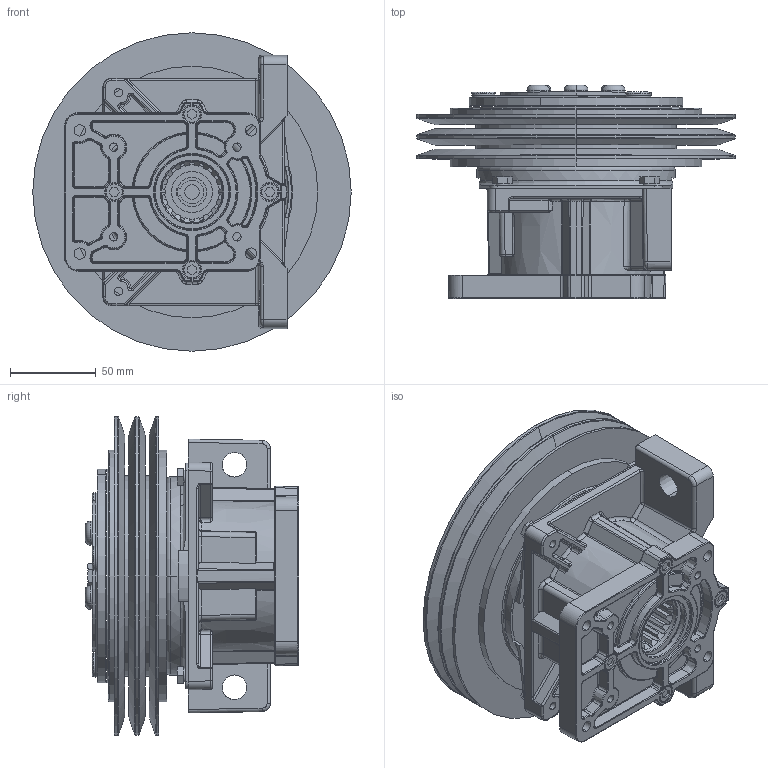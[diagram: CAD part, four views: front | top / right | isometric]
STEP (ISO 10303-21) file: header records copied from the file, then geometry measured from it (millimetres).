
FILE_DESCRIPTION (( 'STEP AP203' ), '1' );
FILE_NAME ('30990.STEP', '2020-09-01T11:30:22', ( '' ), ( '' ), 'SwSTEP 2.0', 'SolidWorks 2020', '' );
FILE_SCHEMA (( 'CONFIG_CONTROL_DESIGN' ));
Length unit declared in the file: millimetre
Products named in the file (1): 30990
Bounding box: 186 x 124.65 x 186 mm (x, y, z)
Surface area: 228325.3 mm2 (no closed solid volume)
Topology: 0 solids, 40 shells, 1231 faces, 3226 edges, 1980 vertices
Faces by surface type: cylinder 376, bspline 316, plane 269, torus 164, cone 87, sphere 19
Entity records: 43229 total; most frequent: CARTESIAN_POINT 15412, ORIENTED_EDGE 5796, DIRECTION 5587, EDGE_CURVE 3197, AXIS2_PLACEMENT_3D 2318, VERTEX_POINT 1980, CIRCLE 1402, EDGE_LOOP 1331
